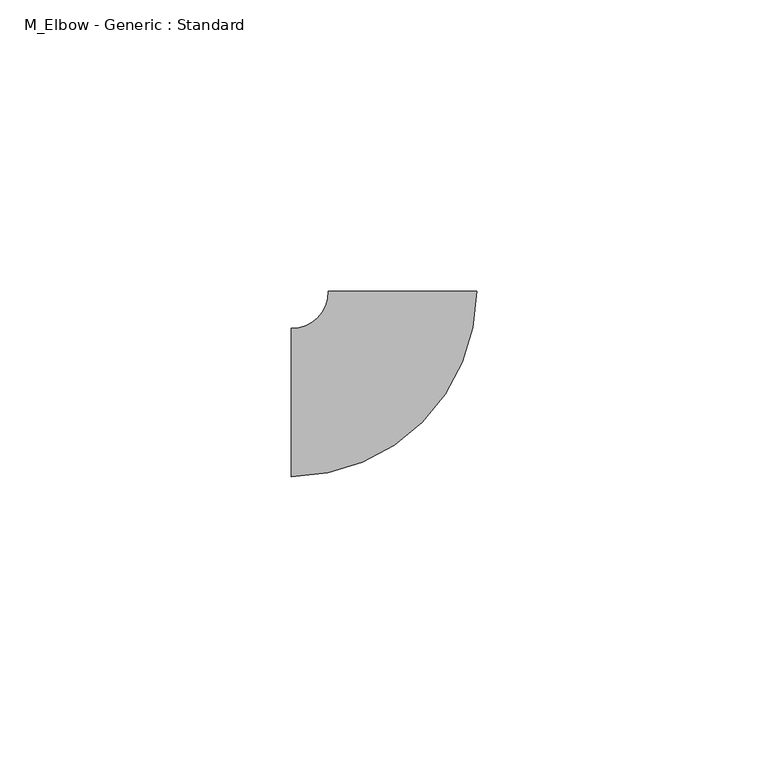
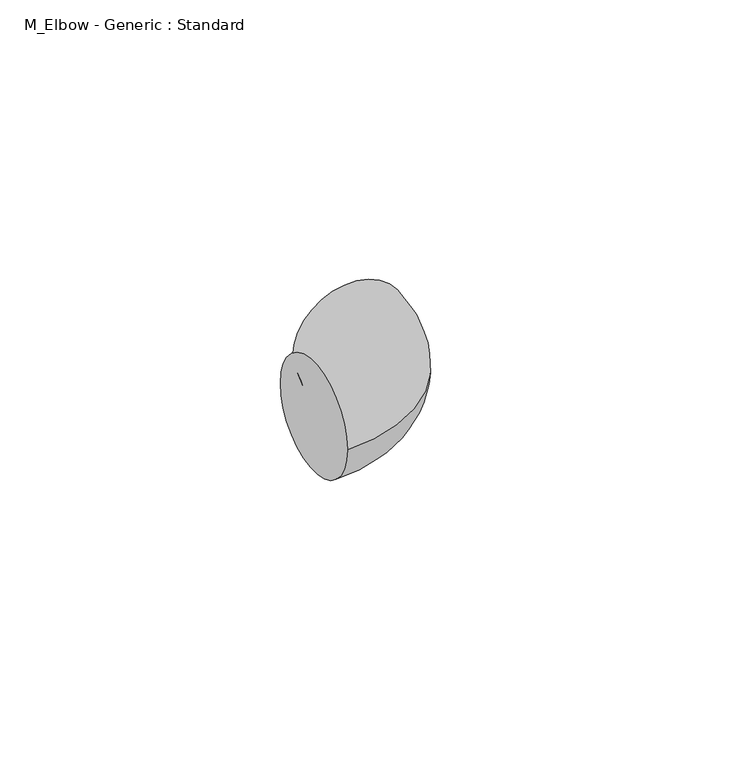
"""IFC4 building model written with IfcOpenShell, lengths in millimetres: pipe fitting geometry, M_Elbow - Generic : Standard."""

from ifc_helpers import new_model, si_unit, point, frame, origin, place, context, project, spatial, circle_curve, ellipse_curve, trimmed, source, transform, mapped, element, save
from ifc_brep_helpers import plane_surface, revolved_surface, advanced_brep


def m_elbow_generic_standard_73005802(model_context):
    return source(origin(), model_context, "Body", "AdvancedBrep", [
        advanced_brep(
        [(-19.05, -12.7, 0.0), (-19.05, 12.7, 0.0), (12.7, 19.05, 0.0), (-12.7, 19.05, 0.0)],
        [
            (0, 1, circle_curve(frame((-19.05, 0.0, 0.0), z_axis=(-1.0, 0.0, 0.0), x_axis=(0.0, 1.0, 0.0)), 12.7)),
            (1, 0, circle_curve(frame((-19.05, 0.0, 0.0), z_axis=(-1.0, 0.0, 0.0), x_axis=(0.0, 1.0, 0.0)), 12.7)),
            (2, 3, circle_curve(frame((0.0, 19.05, 0.0), z_axis=(0.0, 1.0, 0.0), x_axis=(-1.0, 0.0, 0.0)), 12.7)),
            (3, 2, circle_curve(frame((0.0, 19.05, 0.0), z_axis=(0.0, 1.0, 0.0), x_axis=(-1.0, 0.0, 0.0)), 12.7)),
            (3, 1, circle_curve(frame((-19.05, 19.05, 0.0), z_axis=(0.0, 0.0, -1.0), x_axis=(0.0, -1.0, 0.0)), 6.35)),
            (0, 2, circle_curve(frame((-19.05, 19.05, 0.0), z_axis=(0.0, 0.0, 1.0), x_axis=(0.0, -1.0, 0.0)), 31.75)),
        ],
        [
            plane_surface(frame((-19.05, 0.0, 0.0), z_axis=(-1.0, 0.0, 0.0), x_axis=(0.0, 0.0, 1.0))),
            plane_surface(frame((0.0, 19.05, 0.0), z_axis=(0.0, 1.0, 0.0), x_axis=(0.0, 0.0, 1.0))),
            revolved_surface(trimmed(ellipse_curve(frame((-19.05, 0.0, 0.0), z_axis=(-1.0, 0.0, 0.0), x_axis=(0.0, 1.0, 0.0)), 12.7, 12.7), [point((-19.05, -12.7, 0.0))], [point((-19.05, 12.7, 0.0))], True, "CARTESIAN"), (-19.05, 19.05, 0.0), (0.0, 0.0, 1.0)),
            revolved_surface(trimmed(ellipse_curve(frame((-19.05, 0.0, 0.0), z_axis=(-1.0, 0.0, 0.0), x_axis=(0.0, 1.0, 0.0)), 12.7, 12.7), [point((-19.05, 12.7, 0.0))], [point((-19.05, -12.7, 0.0))], True, "CARTESIAN"), (-19.05, 19.05, 0.0), (0.0, 0.0, 1.0)),
        ],
        [
            (0, [[1, 2]]),
            (1, [[3, 4]]),
            (2, [[5, -1, 6, -4]]),
            (3, [[-6, -2, -5, -3]]),
        ],
    ),
    ])


if __name__ == "__main__":
    model = new_model("IFC4")
    model_context = context("Model", 3, world=origin())
    ifc_project = project(units=[si_unit("LENGTHUNIT", "METRE", prefix="MILLI")], contexts=[model_context])
    site = spatial("IfcSite", under=ifc_project)
    building = spatial("IfcBuilding", under=site)
    placement = place(None, origin())
    m_elbow_generic_standard_shape = m_elbow_generic_standard_73005802(model_context)
    element("IfcPipeFitting", 1, ObjectType="M_Elbow - Generic : Standard", at=placement, inside=building, context=model_context, shape_type="MappedRepresentation", body=[
        mapped(m_elbow_generic_standard_shape, transform((0.0, 0.0, 0.0), x_axis=(1.0, 0.0, 0.0), y_axis=(0.0, 1.0, 0.0), z_axis=(0.0, 0.0, 1.0))),
    ])
    save(model, "model.ifc")
